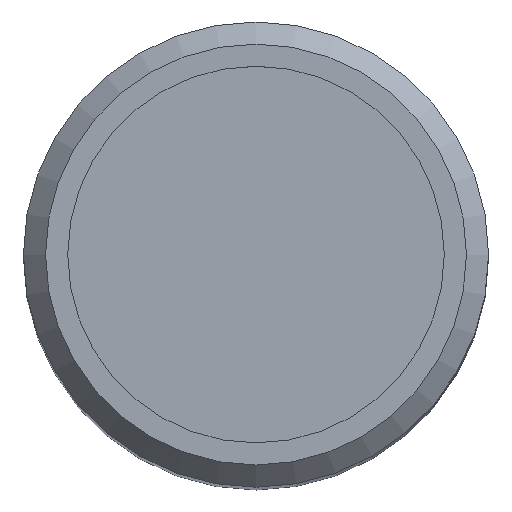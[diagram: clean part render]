
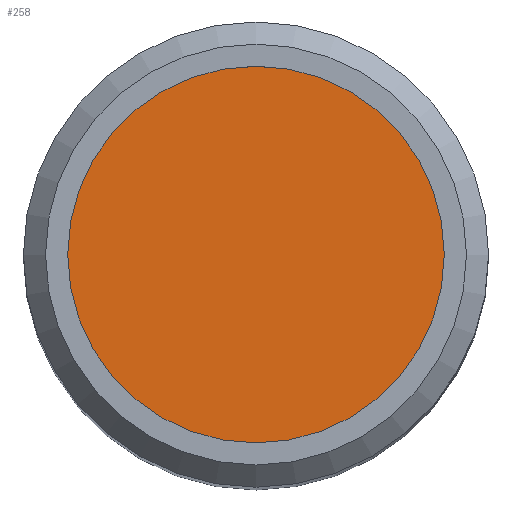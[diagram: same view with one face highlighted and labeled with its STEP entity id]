
A CAD part, top view. The second image highlights one B-rep face of the part: STEP entity #258.
In plain terms, the highlighted planar face has unit normal (0, 0, 1).
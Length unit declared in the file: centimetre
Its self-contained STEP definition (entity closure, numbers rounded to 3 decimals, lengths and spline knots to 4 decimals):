
#115=PLANE('',#287);
#130=VERTEX_POINT('',#381);
#144=CIRCLE('',#286,0.85);
#158=EDGE_CURVE('',#130,#130,#144,.T.);
#186=ORIENTED_EDGE('',*,*,#158,.T.);
#214=EDGE_LOOP('',(#186));
#243=FACE_BOUND('',#214,.T.);
#258=ADVANCED_FACE('',(#243),#115,.T.);
#286=AXIS2_PLACEMENT_3D('',#380,#336,#337);
#287=AXIS2_PLACEMENT_3D('',#382,#338,$);
#336=DIRECTION('',(0.,0.,1.));
#337=DIRECTION('',(0.85,0.,0.));
#338=DIRECTION('',(0.,0.,1.));
#380=CARTESIAN_POINT('',(0.,0.,-0.05));
#381=CARTESIAN_POINT('',(0.85,0.,-0.05));
#382=CARTESIAN_POINT('',(0.,0.,-0.05));
